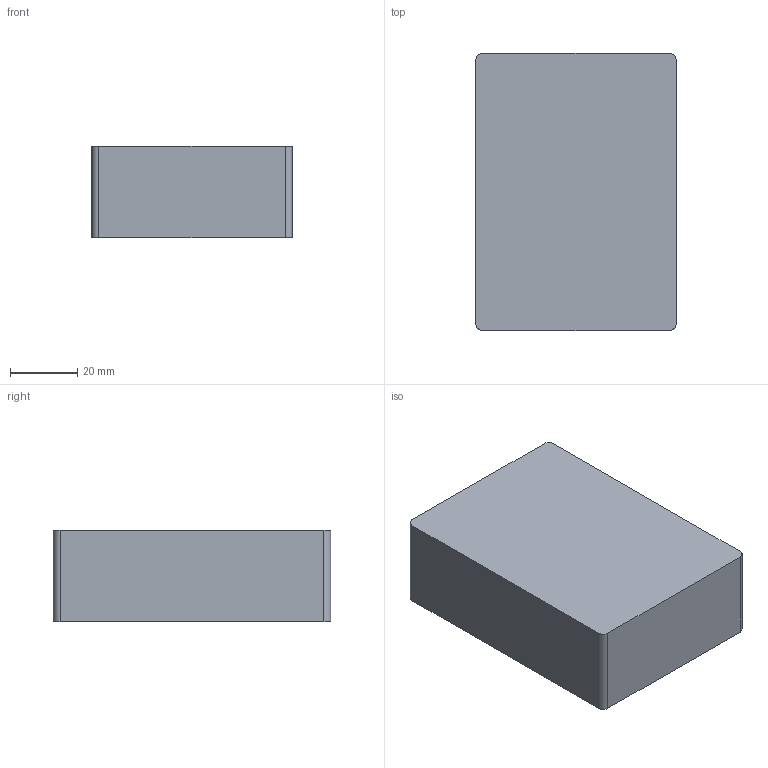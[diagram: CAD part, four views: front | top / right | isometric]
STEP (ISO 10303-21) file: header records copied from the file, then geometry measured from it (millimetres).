
FILE_DESCRIPTION (( 'STEP AP214' ), '1' );
FILE_NAME ('FM3 Press Out Bottom Fixture.STEP', '2021-01-13T16:44:12', ( '' ), ( '' ), 'SwSTEP 2.0', 'SolidWorks 2018', '' );
FILE_SCHEMA (( 'AUTOMOTIVE_DESIGN' ));
Length unit declared in the file: millimetre
Products named in the file (1): FM3 Press Out Bottom Fixture
Bounding box: 59.74 x 82.73 x 27.45 mm (x, y, z)
Volume: 88963.5 mm3; surface area: 21078.9 mm2
Topology: 1 solids, 1 shells, 19 faces, 48 edges, 32 vertices
Faces by surface type: plane 11, cylinder 8
Entity records: 612 total; most frequent: DIRECTION 104, CARTESIAN_POINT 100, ORIENTED_EDGE 96, EDGE_CURVE 48, AXIS2_PLACEMENT_3D 36, VERTEX_POINT 32, LINE 32, VECTOR 32
